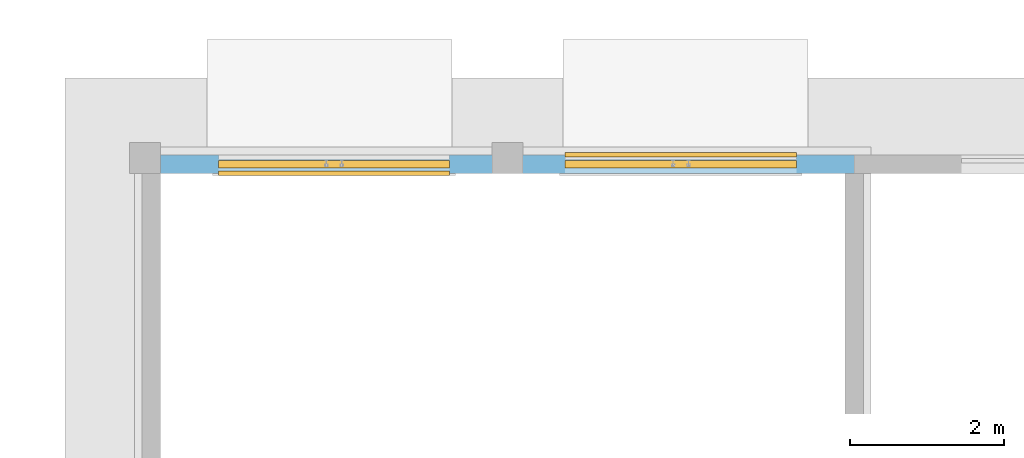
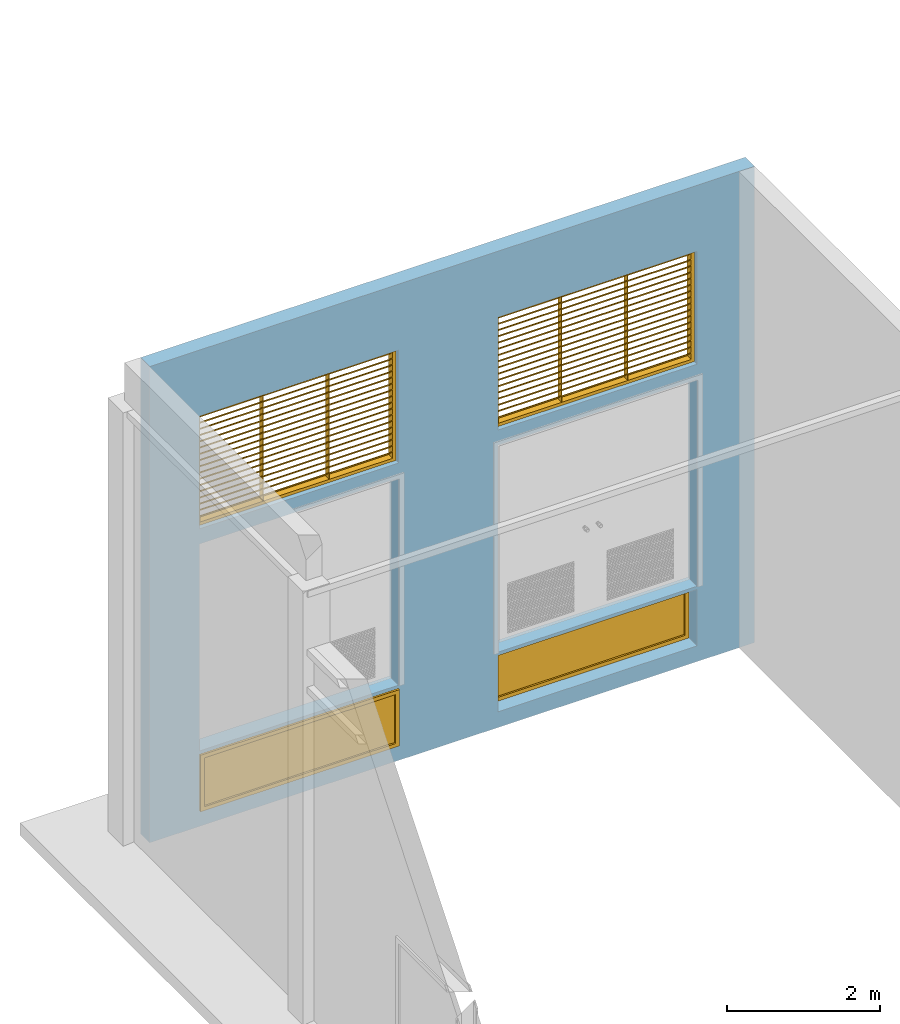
"""IFC2X3 building model written with IfcOpenShell, lengths in millimetres."""

from ifc_helpers import new_model, entity, si_unit, converted_unit, derived_unit, direction, frame, frame_2d, origin, place, context, subcontext, project, spatial, polyline, rectangle, outline, extrude, source, transform, mapped, material, material_list, layer, layer_set, layer_usage, type_object, type_shapes, element, fill, save


model = new_model("IFC2X3")

# Units and contexts
model_context = context("Model", 3, precision=0.01, world=origin(), true_north=direction((6.12303176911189e-17, 1.0)))
body_context = subcontext(model_context, "Body", "Model", "MODEL_VIEW")
ifc_project = project(units=[si_unit("LENGTHUNIT", "METRE", prefix="MILLI"), si_unit("AREAUNIT", "SQUARE_METRE"), si_unit("VOLUMEUNIT", "CUBIC_METRE"), converted_unit("PLANEANGLEUNIT", "DEGREE", entity("IfcRatioMeasure", 0.0174532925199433), si_unit("PLANEANGLEUNIT", "RADIAN"), dimensions=[0, 0, 0, 0, 0, 0, 0]), si_unit("MASSUNIT", "GRAM", prefix="KILO"), derived_unit("MASSDENSITYUNIT", [(si_unit("MASSUNIT", "GRAM", prefix="KILO"), 1), (si_unit("LENGTHUNIT", "METRE"), -3)]), si_unit("TIMEUNIT", "SECOND"), si_unit("FREQUENCYUNIT", "HERTZ"), si_unit("THERMODYNAMICTEMPERATUREUNIT", "DEGREE_CELSIUS"), derived_unit("THERMALTRANSMITTANCEUNIT", [(si_unit("MASSUNIT", "GRAM", prefix="KILO"), 1), (si_unit("THERMODYNAMICTEMPERATUREUNIT", "KELVIN"), -1), (si_unit("TIMEUNIT", "SECOND"), -3)]), derived_unit("VOLUMETRICFLOWRATEUNIT", [(si_unit("LENGTHUNIT", "METRE"), 3), (si_unit("TIMEUNIT", "SECOND"), -1)]), si_unit("ELECTRICCURRENTUNIT", "AMPERE"), si_unit("ELECTRICVOLTAGEUNIT", "VOLT"), si_unit("POWERUNIT", "WATT"), si_unit("FORCEUNIT", "NEWTON", prefix="KILO"), si_unit("ILLUMINANCEUNIT", "LUX"), si_unit("LUMINOUSFLUXUNIT", "LUMEN"), si_unit("LUMINOUSINTENSITYUNIT", "CANDELA"), derived_unit("USERDEFINED", [(si_unit("MASSUNIT", "GRAM", prefix="KILO"), -1), (si_unit("LENGTHUNIT", "METRE"), -2), (si_unit("TIMEUNIT", "SECOND"), 3), (si_unit("LUMINOUSFLUXUNIT", "LUMEN"), 1)]), derived_unit("LINEARVELOCITYUNIT", [(si_unit("LENGTHUNIT", "METRE"), 1), (si_unit("TIMEUNIT", "SECOND"), -1)]), si_unit("PRESSUREUNIT", "PASCAL"), derived_unit("USERDEFINED", [(si_unit("LENGTHUNIT", "METRE"), -2), (si_unit("MASSUNIT", "GRAM", prefix="KILO"), 1), (si_unit("TIMEUNIT", "SECOND"), -2)])], contexts=[model_context])

# Site, building, storey
site_placement = place(None, origin())
site = spatial("IfcSite", under=ifc_project, at=site_placement, Name="表面", CompositionType="ELEMENT")
building_placement = place(site_placement, origin())
building = spatial("IfcBuilding", under=site, at=building_placement, CompositionType="ELEMENT")
storey_1_placement = place(building_placement, frame((0.0, 0.0, -200.0)))
storey_1 = spatial("IfcBuildingStorey", under=building, at=storey_1_placement, Name="室外地坪", CompositionType="ELEMENT", Elevation=-200.0)

# Wall, openings
ifc_material_1 = material(Name="砖石建筑 - 砖")
ifc_layer = layer(ifc_material_1, 240.0)
ifc_layer_set = layer_set([ifc_layer], Name="基本墙:外砖墙240")
ifc_layer_usage = layer_usage(ifc_layer_set, "AXIS2", "NEGATIVE", 120.0)
wall_type = type_object("IfcWallType", Name="基本墙:外砖墙240", PredefinedType="STANDARD", material=ifc_layer_set)
wall_placement = place(storey_1_placement, frame((-47528.7987814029, 15729.6974073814, 0.0)))
wall = element("IfcWallStandardCase", 1, at=wall_placement, inside=storey_1, type_object=wall_type, material=ifc_layer_usage, Name="基本墙:外砖墙240", ObjectType="基本墙:外砖墙240", context=body_context, shape_type="SweptSolid", body=[
    extrude(rectangle(XDim=9119.99999999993, YDim=240.000000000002, at=frame_2d((4559.99999999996, -2.20268248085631e-13), x_axis=(-1.0, 0.0))), origin(), (0.0, 0.0, 1.0), 7590.0),
])
opening_1_placement = place(wall_placement, frame((750.0, -120.0, 1200.0)))
element("IfcOpeningElement", 2, at=opening_1_placement, cuts=wall, Name="双扇平开门M-1:M-1:1", ObjectType="Opening", context=body_context, shape_type="SweptSolid", body=[
    extrude(rectangle(XDim=3299.99999999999, YDim=3000.0, at=frame_2d((1649.99999999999, 1500.0), x_axis=(1.0, 0.0))), frame((0.0, 0.0, 0.0), z_axis=(0.0, 1.0, 0.0), x_axis=(0.0, 0.0, 1.0)), (0.0, 0.0, 1.0), 240.0),
])
opening_2_placement = place(wall_placement, frame((5250.0, -120.0, 1200.0)))
element("IfcOpeningElement", 3, at=opening_2_placement, cuts=wall, Name="双扇平开门M-1:M-1:1", ObjectType="Opening", context=body_context, shape_type="SweptSolid", body=[
    extrude(rectangle(XDim=3299.99999999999, YDim=3000.0, at=frame_2d((1649.99999999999, 1500.0), x_axis=(1.0, 0.0))), frame((0.0, 0.0, 0.0), z_axis=(0.0, 1.0, 0.0), x_axis=(0.0, 0.0, 1.0)), (0.0, 0.0, 1.0), 240.0),
])
opening_3_placement = place(wall_placement, frame((5250.50010036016, -120.0, 250.0)))
opening_3 = element("IfcOpeningElement", 4, at=opening_3_placement, cuts=wall, Name="推拉窗（c-5）:推拉窗（c-5）:1", ObjectType="Opening", context=body_context, shape_type="SweptSolid", body=[
    extrude(rectangle(XDim=900.0, YDim=3000.0, at=frame_2d((450.0, 1500.0), x_axis=(1.0, 0.0))), frame((0.0, 0.0, 0.0), z_axis=(0.0, 1.0, 0.0), x_axis=(0.0, 0.0, 1.0)), (0.0, 0.0, 1.0), 240.0),
])
opening_4_placement = place(wall_placement, frame((3751.00010036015, 120.0, 250.0)))
opening_4 = element("IfcOpeningElement", 5, at=opening_4_placement, cuts=wall, Name="推拉窗（c-5）:推拉窗（c-5）:1", ObjectType="Opening", context=body_context, shape_type="SweptSolid", body=[
    extrude(rectangle(XDim=900.0, YDim=3000.0, at=frame_2d((450.0, 1500.0), x_axis=(1.0, 0.0))), frame((0.0, 0.0, 0.0), z_axis=(0.0, -1.0, 0.0), x_axis=(0.0, 0.0, 1.0)), (0.0, 0.0, 1.0), 240.0),
])
opening_5_placement = place(wall_placement, frame((5250.50010036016, -120.0, 4740.0)))
opening_5 = element("IfcOpeningElement", 6, at=opening_5_placement, cuts=wall, Name="百页窗（c-6）:铝合金百页:1", ObjectType="Opening", context=body_context, shape_type="SweptSolid", body=[
    extrude(rectangle(XDim=1800.0, YDim=3000.0, at=frame_2d((899.999999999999, 1500.0), x_axis=(1.0, 0.0))), frame((0.0, 0.0, 0.0), z_axis=(0.0, 1.0, 0.0), x_axis=(0.0, 0.0, 1.0)), (0.0, 0.0, 1.0), 240.0),
])
opening_6_placement = place(wall_placement, frame((751.000100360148, -120.0, 4740.0)))
opening_6 = element("IfcOpeningElement", 7, at=opening_6_placement, cuts=wall, Name="百页窗（c-6）:铝合金百页:1", ObjectType="Opening", context=body_context, shape_type="SweptSolid", body=[
    extrude(rectangle(XDim=1800.0, YDim=3000.0, at=frame_2d((899.999999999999, 1500.0), x_axis=(1.0, 0.0))), frame((0.0, 0.0, 0.0), z_axis=(0.0, 1.0, 0.0), x_axis=(0.0, 0.0, 1.0)), (0.0, 0.0, 1.0), 240.0),
])

# Storey
storey_2_placement = place(building_placement, origin())
storey_2 = spatial("IfcBuildingStorey", under=building, at=storey_2_placement, Name="±0.000", CompositionType="ELEMENT", Elevation=0.0)

# Window
ifc_material_2 = material(Name="窗框")
ifc_material_3 = material(Name="玻璃 2")
ifc_material_list_1 = material_list([ifc_material_2, ifc_material_3])
ifc_material_list_2 = material_list([ifc_material_2, ifc_material_3])
window_style_1 = type_object("IfcWindowStyle", Name="推拉窗（c-5）", ConstructionType="NOTDEFINED", OperationType="NOTDEFINED", ParameterTakesPrecedence=False, Sizeable=False, material=ifc_material_list_2)
shared_shape_1 = source(origin(), body_context, "Body", "SweptSolid", [
    extrude(outline(polyline([(-1500.0, -450.0), (1500.0, -450.0), (1500.0, 450.0), (-1500.0, 450.0), (-1500.0, -450.0)]), holes=[polyline([(-1440.0, -390.0), (-1440.0, 390.0), (1440.0, 390.0), (1440.0, -390.0), (-1440.0, -390.0)])]), frame((1500.0, 210.0, 450.0), z_axis=(0.0, 1.0, 0.0), x_axis=(1.0, 0.0, 0.0)), (0.0, 0.0, 1.0), 60.0),
    extrude(rectangle(XDim=6.00000000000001, YDim=2880.0, at=frame_2d((-8.43769498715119e-15, 0.0), x_axis=(1.0, 0.0))), frame((1500.0, 240.0, 60.0), z_axis=(0.0, 0.0, 1.0), x_axis=(0.0, 1.0, 0.0)), (0.0, 0.0, 1.0), 780.0),
])
type_shapes(window_style_1, [shared_shape_1])
window_1_placement = place(opening_3_placement, origin())
window_1 = element("IfcWindow", 8, at=window_1_placement, inside=storey_2, type_object=window_style_1, material=ifc_material_list_1, Name="推拉窗（c-5）:推拉窗（c-5）", ObjectType="推拉窗（c-5）", OverallHeight=900.0, OverallWidth=3000.0, context=body_context, shape_type="MappedRepresentation", body=[
    mapped(shared_shape_1, transform((0.0, 0.0, 0.0), scale=1.0)),
])

fill(opening_3, window_1)

ifc_material_list_3 = material_list([ifc_material_2, ifc_material_3])
ifc_material_list_4 = material_list([ifc_material_2, ifc_material_3])
window_style_2 = type_object("IfcWindowStyle", Name="推拉窗（c-5）", ConstructionType="NOTDEFINED", OperationType="NOTDEFINED", ParameterTakesPrecedence=False, Sizeable=False, material=ifc_material_list_4)
shared_shape_2 = source(origin(), body_context, "Body", "SweptSolid", [
    extrude(outline(polyline([(-1500.0, -450.0), (1500.0, -450.0), (1500.0, 450.0), (-1500.0, 450.0), (-1500.0, -450.0)]), holes=[polyline([(-1440.0, -390.0), (-1440.0, 390.0), (1440.0, 390.0), (1440.0, -390.0), (-1440.0, -390.0)])]), frame((1500.0, 270.0, 450.0), z_axis=(0.0, -1.0, 0.0), x_axis=(-1.0, 0.0, 0.0)), (0.0, 0.0, 1.0), 60.0),
    extrude(rectangle(XDim=2880.0, YDim=6.00000000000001, at=frame_2d((0.0, 8.43769498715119e-15), x_axis=(1.0, 0.0))), frame((1500.0, 240.0, 60.0)), (0.0, 0.0, 1.0), 780.0),
])
type_shapes(window_style_2, [shared_shape_2])
window_2_placement = place(opening_4_placement, frame((0.0, 0.0, 0.0), z_axis=(0.0, 0.0, 1.0), x_axis=(-1.0, 0.0, 0.0)))
window_2 = element("IfcWindow", 9, at=window_2_placement, inside=storey_2, type_object=window_style_2, material=ifc_material_list_3, Name="推拉窗（c-5）:推拉窗（c-5）", ObjectType="推拉窗（c-5）", OverallHeight=900.0, OverallWidth=3000.0, context=body_context, shape_type="MappedRepresentation", body=[
    mapped(shared_shape_2, transform((0.0, 0.0, 0.0), scale=1.0)),
])

fill(opening_4, window_2)

ifc_material_4 = material(Name="金属-铝")
window_style_3 = type_object("IfcWindowStyle", Name="铝合金百页", ConstructionType="NOTDEFINED", OperationType="NOTDEFINED", ParameterTakesPrecedence=False, Sizeable=False, material=ifc_material_4)
shared_shape_3 = source(origin(), body_context, "Body", "SweptSolid", [
    extrude(rectangle(XDim=90.0, YDim=7.96117771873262, at=frame_2d((0.0, 3.37507799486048e-14), x_axis=(1.0, 0.0))), frame((1998.67313704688, 120.0, 0.0), z_axis=(0.0, 0.0, 1.0), x_axis=(0.0, 1.0, 0.0)), (0.0, 0.0, 1.0), 1800.0),
    extrude(outline(polyline([(-67.1751442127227, -3.53553390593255), (74.2462120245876, -3.53553390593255), (67.1751442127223, 3.53553390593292), (-74.246212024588, 3.53553390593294), (-67.1751442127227, -3.53553390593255)])), frame((50.0, 120.0, 204.375), z_axis=(1.0, 0.0, 0.0), x_axis=(0.0, -0.707106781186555, 0.70710678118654)), (0.0, 0.0, 1.0), 2899.99999999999),
    extrude(outline(polyline([(-67.1751442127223, -3.53553390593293), (74.246212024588, -3.53553390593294), (67.1751442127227, 3.53553390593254), (-74.2462120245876, 3.53553390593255), (-67.1751442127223, -3.53553390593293)])), frame((50.0, 120.0, 303.75), z_axis=(1.0, 0.0, 0.0), x_axis=(0.0, -0.707106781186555, 0.70710678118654)), (0.0, 0.0, 1.0), 2899.99999999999),
    extrude(outline(polyline([(-67.1751442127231, -3.53553390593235), (74.2462120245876, -3.53553390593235), (67.1751442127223, 3.5355339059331), (-74.2462120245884, 3.53553390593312), (-67.1751442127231, -3.53553390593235)])), frame((50.0, 120.0, 403.125), z_axis=(1.0, 0.0, 0.0), x_axis=(0.0, -0.707106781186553, 0.707106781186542)), (0.0, 0.0, 1.0), 2899.99999999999),
    extrude(rectangle(XDim=90.0, YDim=7.96117771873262, at=frame_2d((0.0, -3.37507799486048e-14), x_axis=(1.0, 0.0))), frame((1001.32686295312, 120.0, 0.0), z_axis=(0.0, 0.0, 1.0), x_axis=(0.0, 1.0, 0.0)), (0.0, 0.0, 1.0), 1800.0),
    extrude(rectangle(XDim=90.0, YDim=7.96117771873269, at=frame_2d((0.0, 1.35225164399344e-13), x_axis=(1.0, 0.0))), frame((2996.01941114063, 120.0, 0.0), z_axis=(0.0, 0.0, 1.0), x_axis=(0.0, 1.0, 0.0)), (0.0, 0.0, 1.0), 1800.0),
    extrude(outline(polyline([(-67.1751442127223, -3.53553390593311), (74.2462120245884, -3.53553390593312), (67.175144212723, 3.53553390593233), (-74.2462120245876, 3.53553390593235), (-67.1751442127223, -3.53553390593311)])), frame((50.0, 120.0, 502.499999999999), z_axis=(1.0, 0.0, 0.0), x_axis=(0.0, -0.707106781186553, 0.707106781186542)), (0.0, 0.0, 1.0), 2899.99999999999),
    extrude(outline(polyline([(-67.1751442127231, -3.53553390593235), (74.2462120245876, -3.53553390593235), (67.1751442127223, 3.5355339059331), (-74.2462120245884, 3.53553390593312), (-67.1751442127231, -3.53553390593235)])), frame((50.0, 120.0, 601.875000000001), z_axis=(1.0, 0.0, 0.0), x_axis=(0.0, -0.707106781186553, 0.707106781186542)), (0.0, 0.0, 1.0), 2899.99999999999),
    extrude(outline(polyline([(-67.1751442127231, -3.53553390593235), (74.2462120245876, -3.53553390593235), (67.1751442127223, 3.5355339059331), (-74.2462120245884, 3.53553390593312), (-67.1751442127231, -3.53553390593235)])), frame((50.0, 120.0, 701.250000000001), z_axis=(1.0, 0.0, 0.0), x_axis=(0.0, -0.707106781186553, 0.707106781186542)), (0.0, 0.0, 1.0), 2899.99999999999),
    extrude(outline(polyline([(-67.1751442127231, -3.53553390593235), (74.2462120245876, -3.53553390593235), (67.1751442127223, 3.5355339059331), (-74.2462120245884, 3.53553390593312), (-67.1751442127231, -3.53553390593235)])), frame((50.0, 120.0, 800.625000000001), z_axis=(1.0, 0.0, 0.0), x_axis=(0.0, -0.707106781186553, 0.707106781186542)), (0.0, 0.0, 1.0), 2899.99999999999),
    extrude(outline(polyline([(-67.1751442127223, -3.53553390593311), (74.2462120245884, -3.53553390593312), (67.175144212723, 3.53553390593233), (-74.2462120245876, 3.53553390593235), (-67.1751442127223, -3.53553390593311)])), frame((50.0, 120.0, 900.0), z_axis=(1.0, 0.0, 0.0), x_axis=(0.0, -0.707106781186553, 0.707106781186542)), (0.0, 0.0, 1.0), 2899.99999999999),
    extrude(outline(polyline([(-67.1751442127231, -3.53553390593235), (74.2462120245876, -3.53553390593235), (67.1751442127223, 3.5355339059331), (-74.2462120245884, 3.53553390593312), (-67.1751442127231, -3.53553390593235)])), frame((50.0, 120.0, 999.375), z_axis=(1.0, 0.0, 0.0), x_axis=(0.0, -0.707106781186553, 0.707106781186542)), (0.0, 0.0, 1.0), 2899.99999999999),
    extrude(outline(polyline([(-67.1751442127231, -3.53553390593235), (74.2462120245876, -3.53553390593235), (67.1751442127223, 3.5355339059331), (-74.2462120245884, 3.53553390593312), (-67.1751442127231, -3.53553390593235)])), frame((50.0, 120.0, 1098.75), z_axis=(1.0, 0.0, 0.0), x_axis=(0.0, -0.707106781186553, 0.707106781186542)), (0.0, 0.0, 1.0), 2899.99999999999),
    extrude(outline(polyline([(-67.1751442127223, -3.53553390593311), (74.2462120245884, -3.53553390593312), (67.175144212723, 3.53553390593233), (-74.2462120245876, 3.53553390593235), (-67.1751442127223, -3.53553390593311)])), frame((50.0, 120.0, 1198.125), z_axis=(1.0, 0.0, 0.0), x_axis=(0.0, -0.707106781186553, 0.707106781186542)), (0.0, 0.0, 1.0), 2899.99999999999),
    extrude(outline(polyline([(-67.1751442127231, -3.53553390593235), (74.2462120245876, -3.53553390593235), (67.1751442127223, 3.5355339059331), (-74.2462120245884, 3.53553390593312), (-67.1751442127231, -3.53553390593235)])), frame((50.0, 120.0, 1297.5), z_axis=(1.0, 0.0, 0.0), x_axis=(0.0, -0.707106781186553, 0.707106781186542)), (0.0, 0.0, 1.0), 2899.99999999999),
    extrude(outline(polyline([(-67.1751442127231, -3.53553390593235), (74.2462120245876, -3.53553390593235), (67.1751442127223, 3.5355339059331), (-74.2462120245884, 3.53553390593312), (-67.1751442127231, -3.53553390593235)])), frame((50.0, 120.0, 1396.875), z_axis=(1.0, 0.0, 0.0), x_axis=(0.0, -0.707106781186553, 0.707106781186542)), (0.0, 0.0, 1.0), 2899.99999999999),
    extrude(outline(polyline([(-67.1751442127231, -3.53553390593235), (74.2462120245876, -3.53553390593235), (67.1751442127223, 3.5355339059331), (-74.2462120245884, 3.53553390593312), (-67.1751442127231, -3.53553390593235)])), frame((50.0, 120.0, 1496.25), z_axis=(1.0, 0.0, 0.0), x_axis=(0.0, -0.707106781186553, 0.707106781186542)), (0.0, 0.0, 1.0), 2899.99999999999),
    extrude(outline(polyline([(-67.1751442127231, -3.53553390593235), (74.2462120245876, -3.53553390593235), (67.1751442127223, 3.5355339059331), (-74.2462120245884, 3.53553390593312), (-67.1751442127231, -3.53553390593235)])), frame((50.0, 120.0, 1595.625), z_axis=(1.0, 0.0, 0.0), x_axis=(0.0, -0.707106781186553, 0.707106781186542)), (0.0, 0.0, 1.0), 2899.99999999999),
    extrude(outline(polyline([(-67.1751442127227, -3.53553390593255), (74.2462120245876, -3.53553390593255), (67.1751442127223, 3.53553390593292), (-74.246212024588, 3.53553390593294), (-67.1751442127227, -3.53553390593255)])), frame((50.0, 120.0, 105.0), z_axis=(1.0, 0.0, 0.0), x_axis=(0.0, -0.707106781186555, 0.70710678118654)), (0.0, 0.0, 1.0), 2899.99999999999),
    extrude(rectangle(XDim=90.0, YDim=7.96117771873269, at=frame_2d((0.0, 1.35225164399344e-13), x_axis=(1.0, 0.0))), frame((3.98058885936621, 120.0, 0.0), z_axis=(0.0, 0.0, 1.0), x_axis=(0.0, 1.0, 0.0)), (0.0, 0.0, 1.0), 1800.0),
    extrude(outline(polyline([(-67.1751442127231, -3.53553390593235), (74.2462120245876, -3.53553390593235), (67.1751442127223, 3.5355339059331), (-74.2462120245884, 3.53553390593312), (-67.1751442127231, -3.53553390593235)])), frame((50.0, 120.0, 1695.0), z_axis=(1.0, 0.0, 0.0), x_axis=(0.0, -0.707106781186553, 0.707106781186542)), (0.0, 0.0, 1.0), 2899.99999999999),
    extrude(outline(polyline([(-1500.0, -900.0), (1500.0, -900.0), (1500.0, 900.0), (-1500.0, 900.0), (-1500.0, -900.0)]), holes=[polyline([(-1450.0, -850.0), (-1450.0, 850.0), (1450.0, 850.0), (1450.0, -850.0), (-1450.0, -850.0)])]), frame((1500.0, 70.0, 900.0), z_axis=(0.0, 1.0, 0.0), x_axis=(1.0, 0.0, 0.0)), (0.0, 0.0, 1.0), 100.0),
])
type_shapes(window_style_3, [shared_shape_3])
window_3_placement = place(opening_5_placement, origin())
window_3 = element("IfcWindow", 10, at=window_3_placement, inside=storey_2, type_object=window_style_3, material=ifc_material_4, Name="百页窗（c-6）:铝合金百页", ObjectType="铝合金百页", OverallHeight=1800.0, OverallWidth=3000.0, context=body_context, shape_type="MappedRepresentation", body=[
    mapped(shared_shape_3, transform((0.0, 0.0, 0.0), scale=1.0)),
])

fill(opening_5, window_3)

window_4_placement = place(opening_6_placement, origin())
window_4 = element("IfcWindow", 11, at=window_4_placement, inside=storey_2, type_object=window_style_3, material=ifc_material_4, Name="百页窗（c-6）:铝合金百页", ObjectType="铝合金百页", OverallHeight=1800.0, OverallWidth=3000.0, context=body_context, shape_type="MappedRepresentation", body=[
    mapped(shared_shape_3, transform((0.0, 0.0, 0.0), scale=1.0)),
])

fill(opening_6, window_4)

save(model, "model.ifc")
